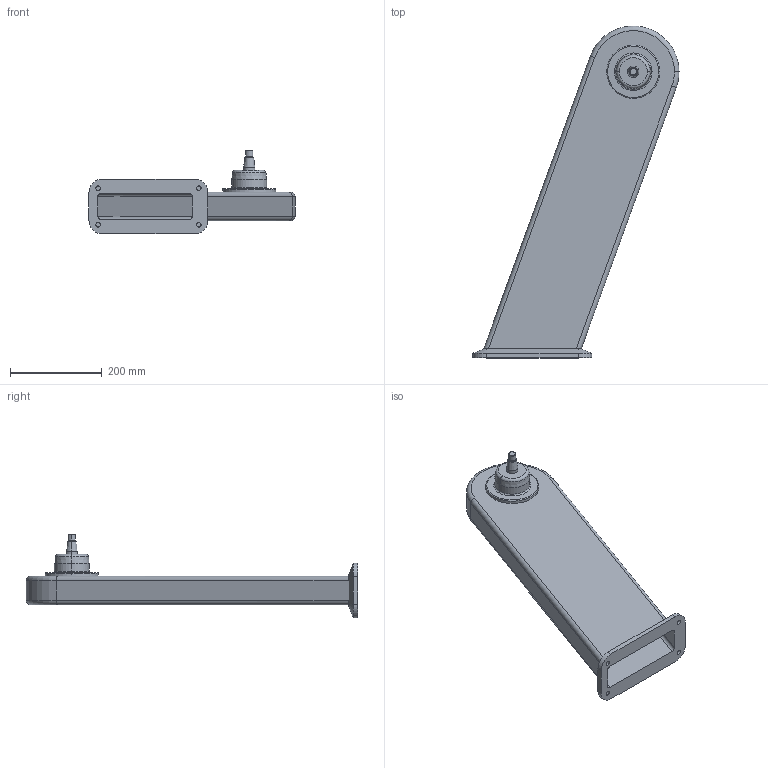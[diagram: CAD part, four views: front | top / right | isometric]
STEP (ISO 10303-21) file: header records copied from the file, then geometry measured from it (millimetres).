
FILE_DESCRIPTION (( 'STEP AP214' ), '1' );
FILE_NAME ('WP800_H625_+20.STEP', '2014-06-26T12:18:29', ( '' ), ( '' ), 'SwSTEP 2.0', 'SolidWorks 2014', '' );
FILE_SCHEMA (( 'AUTOMOTIVE_DESIGN' ));
Length unit declared in the file: millimetre
Products named in the file (1): WP800_H625_+20
Bounding box: 450.2 x 725 x 183.29 mm (x, y, z)
Volume: 1694663.8 mm3; surface area: 808299 mm2
Topology: 1 solids, 1 shells, 93 faces, 208 edges, 126 vertices
Faces by surface type: cylinder 36, plane 27, cone 16, torus 14
Entity records: 2620 total; most frequent: DIRECTION 488, CARTESIAN_POINT 464, ORIENTED_EDGE 416, EDGE_CURVE 208, AXIS2_PLACEMENT_3D 198, VERTEX_POINT 126, EDGE_LOOP 104, CIRCLE 104
